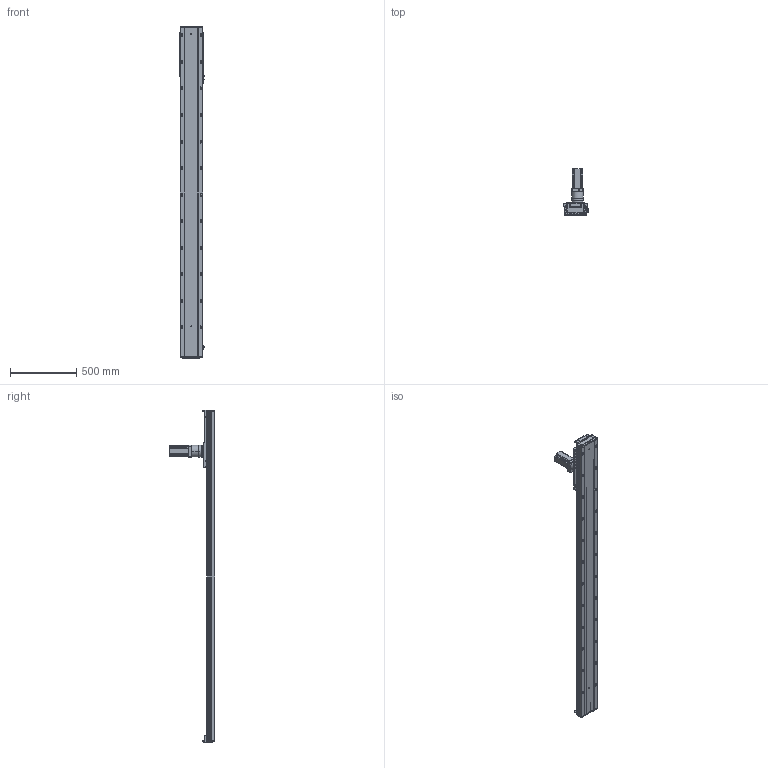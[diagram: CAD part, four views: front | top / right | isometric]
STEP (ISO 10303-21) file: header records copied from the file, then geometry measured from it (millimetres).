
FILE_DESCRIPTION (( 'STEP AP203' ), '1' );
FILE_NAME ('RY170-C-1000-UK.SLDASM_2200.step', '2021-03-03T00:47:20', ( '盈信电脑' ), ( '东莞市道滘镇水果街19号' ), 'SwSTEP 2.0', 'SolidWorks 2012', '' );
FILE_SCHEMA (( 'CONFIG_CONTROL_DESIGN' ));
Length unit declared in the file: millimetre
Products named in the file (13): RY170-C-1000-UK.SLDASM_2200; RY170-喘沭賑輸; TF080等撰; RY170-喘沭滅袉蝶輸; 怢湛750W萇儂ㄗ80遺ㄘ; 左旋斜齿齿轮_M2_22齿_内孔20; 覜茼ん672; RY170綴裔啣ㄗ蜊秶ㄘ; RY170-喘謫萇儂覃誹啣; RY170外置感应片(200共用）; RY170-1000齿条模组型材底座_2000; RY170-1000-喘沭耀郪絳寢EGH20CA_2000; 絳寢賑輸EGH20CA
Assembly tree (22 placements, depth 2):
  RY170-C-1000-UK.SLDASM_2200
    RY170-1000齿条模组型材底座_2000
    絳寢賑輸EGH20CA  x6
    RY170-1000-喘沭耀郪絳寢EGH20CA_2000  x2
    RY170綴裔啣ㄗ蜊秶ㄘ  x2
    覜茼ん672  x3
    RY170外置感应片(200共用）
    RY170-喘謫萇儂覃誹啣
    怢湛750W萇儂ㄗ80遺ㄘ
    RY170-喘沭滅袉蝶輸  x2
    TF080等撰
    左旋斜齿齿轮_M2_22齿_内孔20
    RY170-喘沭賑輸
Bounding box: 188.7 x 343.5 x 2500 mm (x, y, z)
Volume: 13532653 mm3; surface area: 3383167.6 mm2
Topology: 24 solids, 24 shells, 4355 faces, 12164 edges, 7792 vertices
Faces by surface type: plane 2113, cylinder 1860, cone 328, bspline 50, torus 4
Entity records: 97022 total; most frequent: CARTESIAN_POINT 22536, ORIENTED_EDGE 15502, DIRECTION 15086, EDGE_CURVE 7751, AXIS2_PLACEMENT_3D 5561, VERTEX_POINT 5042, LINE 3964, VECTOR 3964
